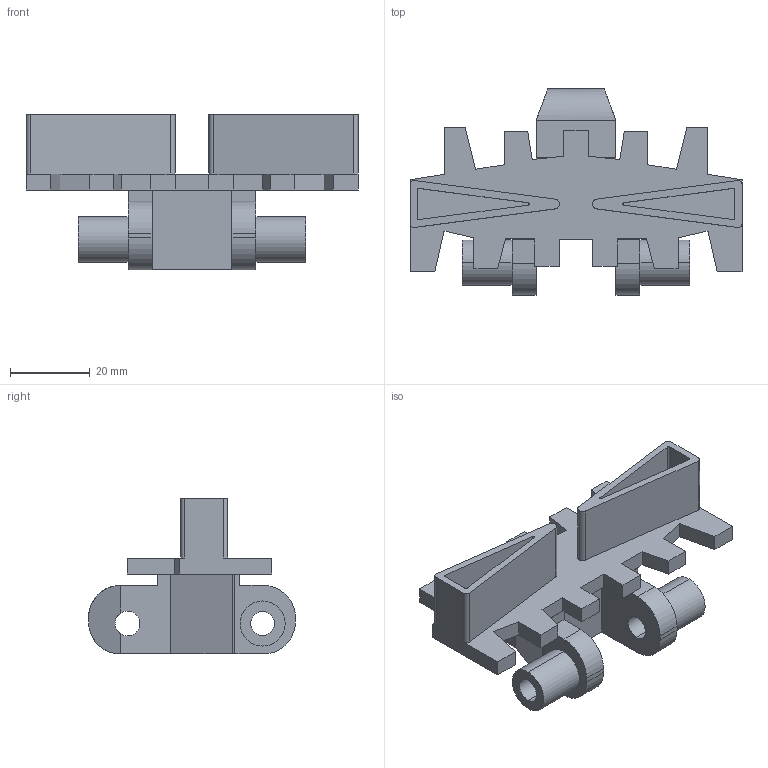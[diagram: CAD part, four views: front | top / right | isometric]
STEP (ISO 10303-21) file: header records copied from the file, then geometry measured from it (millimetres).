
FILE_DESCRIPTION (( 'STEP AP214' ), '1' );
FILE_NAME ('FMCT 5A15.STEP', '2017-04-05T05:54:46', ( '' ), ( '' ), 'SwSTEP 2.0', 'SolidWorks 2016', '' );
FILE_SCHEMA (( 'AUTOMOTIVE_DESIGN' ));
Length unit declared in the file: millimetre
Products named in the file (1): FMCT 5A15
Bounding box: 83 x 51.7 x 39 mm (x, y, z)
Volume: 28899.1 mm3; surface area: 16247.8 mm2
Topology: 1 solids, 1 shells, 124 faces, 348 edges, 228 vertices
Faces by surface type: plane 92, cylinder 32
Entity records: 4004 total; most frequent: CARTESIAN_POINT 719, ORIENTED_EDGE 696, DIRECTION 654, EDGE_CURVE 348, LINE 280, VECTOR 280, VERTEX_POINT 228, AXIS2_PLACEMENT_3D 187
